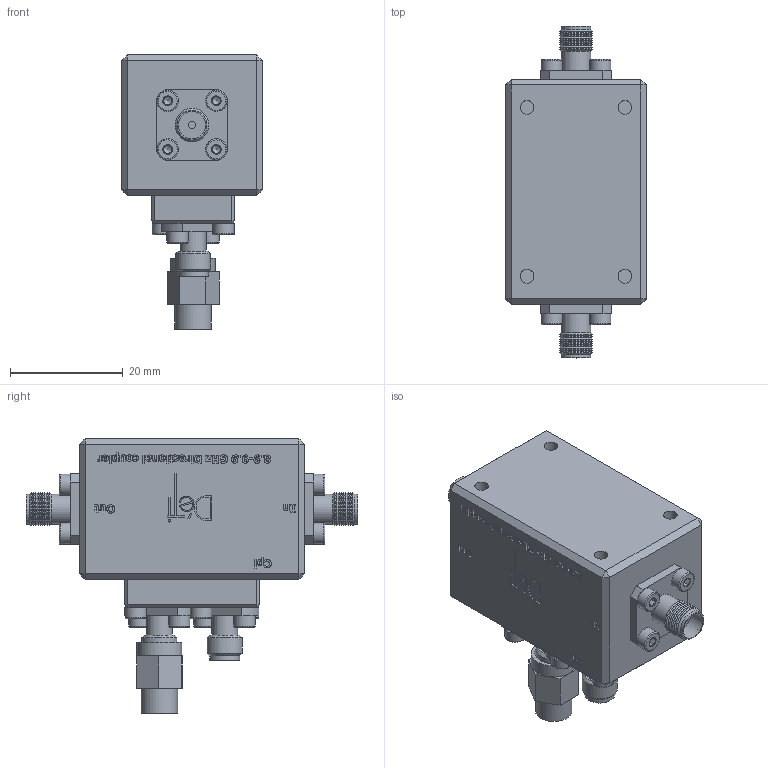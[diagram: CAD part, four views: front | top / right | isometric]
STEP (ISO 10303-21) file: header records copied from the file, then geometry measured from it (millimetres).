
FILE_DESCRIPTION(/* description */ ('Unknown'),/* implementation_level */ '2;1');
FILE_NAME(/* name */ 'DETI_MICROWAVE_HIGH_POWER_UNIDIRECTIONAL_COUPLER_011083_STEP',/* time_stamp */ '2021-06-10T14:52:10+02:00',/* author */ ('ALG'),/* organization */ ('DETI'),/* preprocessor_version */ 'ST-DEVELOPER v16.7',/* originating_system */ 'Solid Edge',/* authorisation */ 'Unknown');
FILE_SCHEMA (('AP203_CONFIGURATION_CONTROLLED_3D_DESIGN_OF_MECHANICAL_PARTS_AND_ASSEMBLIES_MIM_LF { 1 0 10303 203 3 1 4 }','AUTOMOTIVE_DESIGN {1 0 10303 214 3 1 1}'));
Length unit declared in the file: millimetre
Products named in the file (1): CD-1-8900-9900-20-75-SF-SF-SF2
Bounding box: 25 x 59 x 48.77 mm (x, y, z)
Volume: 26725 mm3; surface area: 9709.4 mm2
Topology: 3 solids, 23 shells, 901 faces, 2149 edges, 1384 vertices
Faces by surface type: plane 584, cylinder 101, cone 96, bspline 84, torus 36
Full cylindrical faces by diameter (mm): 0.459 x1, 0.8 x1, 0.975 x2, 0.985 x2, 1.265 x2, 1.27 x1, 1.28 x2, 1.567 x4, 2 x12, 2.2 x4, 2.459 x4, 2.6 x8, 3.8 x16, 4.1 x4, 4.11 x2, 4.6 x2, 4.64 x2, 4.9 x2, 5.3 x4, 5.35 x2, 6.255 x2, 6.5 x1, 6.7 x1, 6.8 x1, 8 x1
Entity records: 31980 total; most frequent: CARTESIAN_POINT 6847, ORIENTED_EDGE 3676, DIRECTION 3563, EDGE_CURVE 1838, VERTEX_POINT 1309, FACE_BOUND 1255, EDGE_LOOP 1235, LINE 1197
